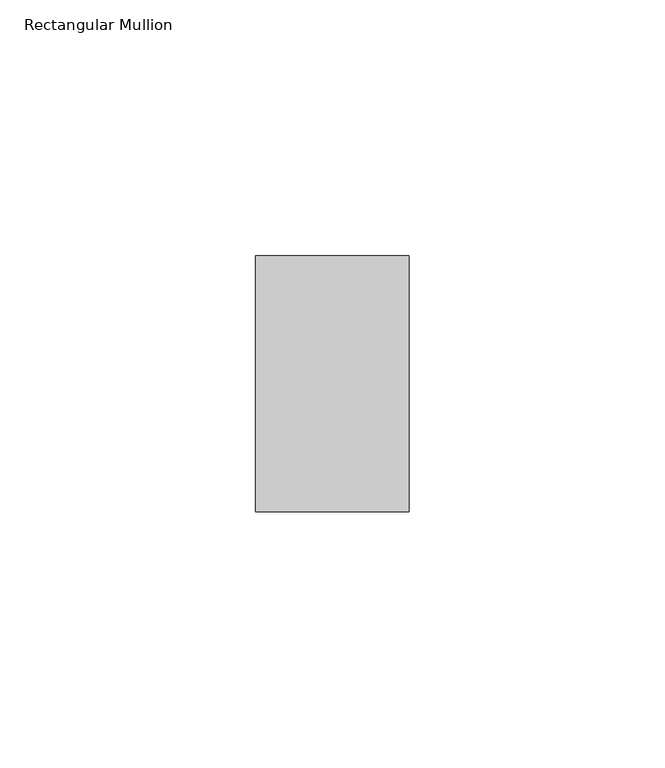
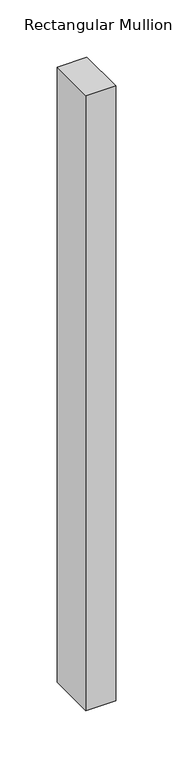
"""IFC4 building model written with IfcOpenShell, lengths in millimetres: member geometry, Rectangular Mullion : ARQ_TV_MULL_50x30mm."""

from ifc_helpers import new_model, si_unit, frame, origin, place, context, project, spatial, polyline, outline, extrude, source, transform, mapped, element, save


def rectangular_mullion_f4aebcd0(model_context):
    return source(origin(), model_context, "Body", "SweptSolid", [
        extrude(outline(polyline([(0.0, 25.0), (0.0, -25.0), (-30.0, -25.0), (-30.0, 25.0), (0.0, 25.0)])), frame((0.0, 0.0, -655.9883626), z_axis=(0.0, 0.0, 1.0), x_axis=(1.0, 0.0, 0.0)), (0.0, 0.0, 1.0), 655.9883626),
    ])


if __name__ == "__main__":
    model = new_model("IFC4")
    model_context = context("Model", 3, world=origin())
    ifc_project = project(units=[si_unit("LENGTHUNIT", "METRE", prefix="MILLI")], contexts=[model_context])
    site = spatial("IfcSite", under=ifc_project)
    building = spatial("IfcBuilding", under=site)
    placement = place(None, origin())
    rectangular_mullion_shape = rectangular_mullion_f4aebcd0(model_context)
    element("IfcMember", 1, ObjectType="Rectangular Mullion : ARQ_TV_MULL_50x30mm", at=placement, inside=building, context=model_context, shape_type="MappedRepresentation", body=[
        mapped(rectangular_mullion_shape, transform((0.0, 0.0, 0.0), x_axis=(1.0, 0.0, 0.0), y_axis=(0.0, 1.0, 0.0), z_axis=(0.0, 0.0, 1.0))),
    ])
    save(model, "model.ifc")
